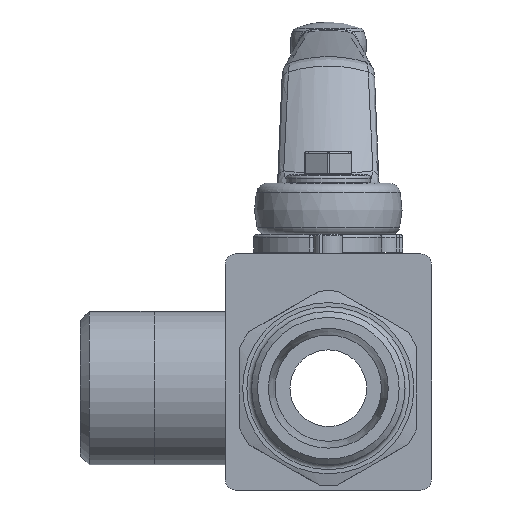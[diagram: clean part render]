
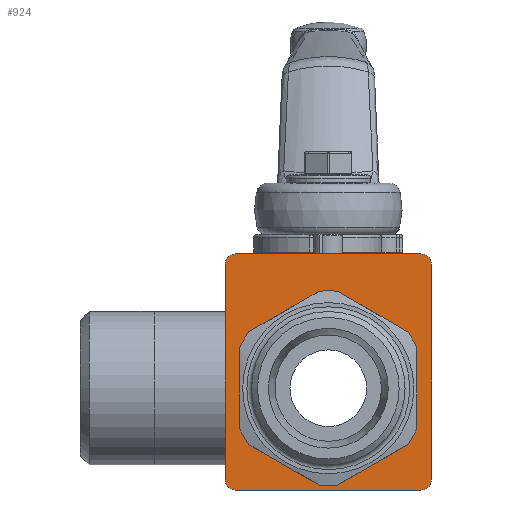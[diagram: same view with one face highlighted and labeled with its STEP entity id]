
A CAD part, front view. The second image highlights one B-rep face of the part: STEP entity #924.
In plain terms, the highlighted planar face has unit normal (0, -1, 0).
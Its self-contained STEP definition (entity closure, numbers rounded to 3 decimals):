
#924 = ADVANCED_FACE( '', ( #1952, #1953 ), #1954, .F. );
#1952 = FACE_BOUND( '', #3742, .T. );
#1953 = FACE_OUTER_BOUND( '', #3743, .T. );
#1954 = PLANE( '', #3744 );
#3742 = EDGE_LOOP( '', ( #6396 ) );
#3743 = EDGE_LOOP( '', ( #6397, #6398, #6399, #6400, #6401, #6402, #6403, #6404 ) );
#3744 = AXIS2_PLACEMENT_3D( '', #6405, #6406, #6407 );
#6396 = ORIENTED_EDGE( '', *, *, #8686, .F. );
#6397 = ORIENTED_EDGE( '', *, *, #8687, .T. );
#6398 = ORIENTED_EDGE( '', *, *, #8624, .T. );
#6399 = ORIENTED_EDGE( '', *, *, #8688, .T. );
#6400 = ORIENTED_EDGE( '', *, *, #8689, .T. );
#6401 = ORIENTED_EDGE( '', *, *, #8690, .T. );
#6402 = ORIENTED_EDGE( '', *, *, #8691, .T. );
#6403 = ORIENTED_EDGE( '', *, *, #8692, .T. );
#6404 = ORIENTED_EDGE( '', *, *, #8693, .T. );
#6405 = CARTESIAN_POINT( '', ( -17.5, -24.1, 22.75 ) );
#6406 = DIRECTION( '', ( 0., 1., 0. ) );
#6407 = DIRECTION( '', ( 0., 0., 1. ) );
#8624 = EDGE_CURVE( '', #10221, #10222, #10223, .F. );
#8686 = EDGE_CURVE( '', #10304, #10304, #10305, .T. );
#8687 = EDGE_CURVE( '', #10306, #10221, #10307, .T. );
#8688 = EDGE_CURVE( '', #10222, #10308, #10309, .T. );
#8689 = EDGE_CURVE( '', #10308, #10310, #10311, .F. );
#8690 = EDGE_CURVE( '', #10310, #10312, #10313, .T. );
#8691 = EDGE_CURVE( '', #10312, #10314, #10315, .F. );
#8692 = EDGE_CURVE( '', #10314, #10316, #10317, .T. );
#8693 = EDGE_CURVE( '', #10316, #10306, #10318, .F. );
#10221 = VERTEX_POINT( '', #13058 );
#10222 = VERTEX_POINT( '', #13059 );
#10223 = CIRCLE( '', #13060, 1.8 );
#10304 = VERTEX_POINT( '', #13339 );
#10305 = CIRCLE( '', #13340, 15. );
#10306 = VERTEX_POINT( '', #13341 );
#10307 = LINE( '', #13342, #13343 );
#10308 = VERTEX_POINT( '', #13344 );
#10309 = LINE( '', #13345, #13346 );
#10310 = VERTEX_POINT( '', #13347 );
#10311 = CIRCLE( '', #13348, 1.8 );
#10312 = VERTEX_POINT( '', #13349 );
#10313 = LINE( '', #13350, #13351 );
#10314 = VERTEX_POINT( '', #13352 );
#10315 = CIRCLE( '', #13353, 1.8 );
#10316 = VERTEX_POINT( '', #13354 );
#10317 = LINE( '', #13355, #13356 );
#10318 = CIRCLE( '', #13357, 1.8 );
#13058 = CARTESIAN_POINT( '', ( 15.7, -24.1, -17.25 ) );
#13059 = CARTESIAN_POINT( '', ( 17.5, -24.1, -15.45 ) );
#13060 = AXIS2_PLACEMENT_3D( '', #15045, #15046, #15047 );
#13339 = CARTESIAN_POINT( '', ( 15., -24.1, 0. ) );
#13340 = AXIS2_PLACEMENT_3D( '', #15110, #15111, #15112 );
#13341 = CARTESIAN_POINT( '', ( -15.7, -24.1, -17.25 ) );
#13342 = CARTESIAN_POINT( '', ( -17.5, -24.1, -17.25 ) );
#13343 = VECTOR( '', #15113, 1000. );
#13344 = CARTESIAN_POINT( '', ( 17.5, -24.1, 20.95 ) );
#13345 = CARTESIAN_POINT( '', ( 17.5, -24.1, -17.25 ) );
#13346 = VECTOR( '', #15114, 1000. );
#13347 = CARTESIAN_POINT( '', ( 15.7, -24.1, 22.75 ) );
#13348 = AXIS2_PLACEMENT_3D( '', #15115, #15116, #15117 );
#13349 = CARTESIAN_POINT( '', ( -15.7, -24.1, 22.75 ) );
#13350 = CARTESIAN_POINT( '', ( 17.5, -24.1, 22.75 ) );
#13351 = VECTOR( '', #15118, 1000. );
#13352 = CARTESIAN_POINT( '', ( -17.5, -24.1, 20.95 ) );
#13353 = AXIS2_PLACEMENT_3D( '', #15119, #15120, #15121 );
#13354 = CARTESIAN_POINT( '', ( -17.5, -24.1, -15.45 ) );
#13355 = CARTESIAN_POINT( '', ( -17.5, -24.1, 22.75 ) );
#13356 = VECTOR( '', #15122, 1000. );
#13357 = AXIS2_PLACEMENT_3D( '', #15123, #15124, #15125 );
#15045 = CARTESIAN_POINT( '', ( 15.7, -24.1, -15.45 ) );
#15046 = DIRECTION( '', ( 0., 1., 0. ) );
#15047 = DIRECTION( '', ( 0., 0., 1. ) );
#15110 = CARTESIAN_POINT( '', ( 0., -24.1, 0. ) );
#15111 = DIRECTION( '', ( 0., -1., 0. ) );
#15112 = DIRECTION( '', ( 1., 0., 0. ) );
#15113 = DIRECTION( '', ( 1., 0., 0. ) );
#15114 = DIRECTION( '', ( 0., 0., 1. ) );
#15115 = CARTESIAN_POINT( '', ( 15.7, -24.1, 20.95 ) );
#15116 = DIRECTION( '', ( 0., 1., 0. ) );
#15117 = DIRECTION( '', ( 0., 0., 1. ) );
#15118 = DIRECTION( '', ( -1., 0., 0. ) );
#15119 = CARTESIAN_POINT( '', ( -15.7, -24.1, 20.95 ) );
#15120 = DIRECTION( '', ( 0., 1., 0. ) );
#15121 = DIRECTION( '', ( 0., 0., 1. ) );
#15122 = DIRECTION( '', ( 0., 0., -1. ) );
#15123 = CARTESIAN_POINT( '', ( -15.7, -24.1, -15.45 ) );
#15124 = DIRECTION( '', ( 0., 1., 0. ) );
#15125 = DIRECTION( '', ( 0., 0., 1. ) );
